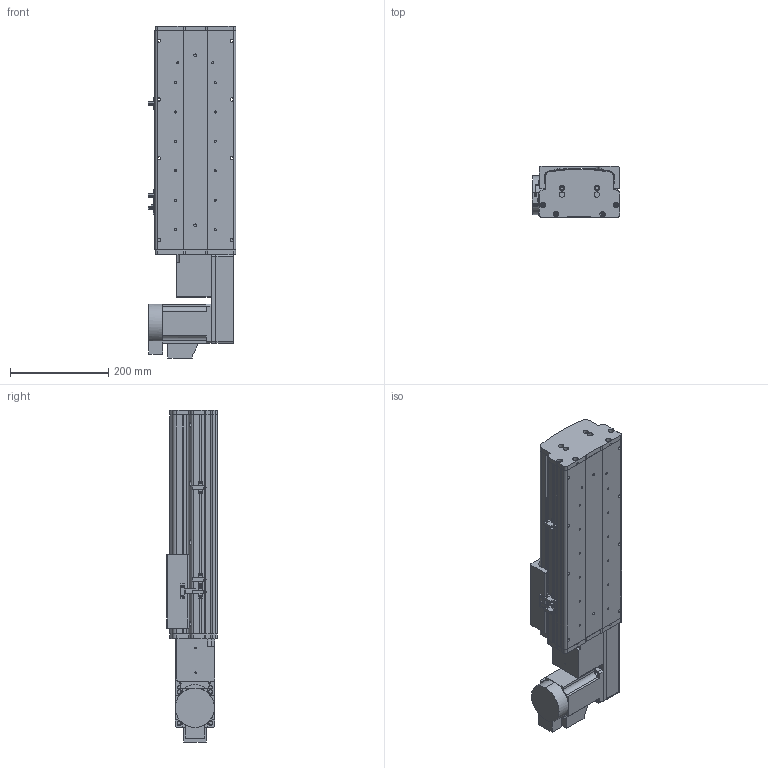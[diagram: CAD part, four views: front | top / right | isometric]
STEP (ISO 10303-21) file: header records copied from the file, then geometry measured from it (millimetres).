
FILE_DESCRIPTION (( 'STEP AP214' ), '1' );
FILE_NAME ('KSD165B-S200-MRB-CM.STEP', '2017-10-16T08:37:38', ( '微软用户' ), ( '微软中国' ), 'SwSTEP 2.0', 'SolidWorks 2014', '' );
FILE_SCHEMA (( 'AUTOMOTIVE_DESIGN' ));
Length unit declared in the file: millimetre
Products named in the file (17): HTPA26S5M250-A-H8 400W萇儂蚚 ; 130宽模组马达安装板连板左右折同步带; 130宽模组保护罩上下左右折-同步带; KSD165模组-同步带防尘盖1-200行程-最新版; KSD165模组同步带底板-200行程-最新; 拸秶雄ん750W侜督萇儂; 165宽马达安装板同步带右; U倰嫖萇假蚾璃; U倰嫖萇EEㄜSX672; 覜茼え68遵圉猾敕; KSD165模组-同步带-防撞垫2; KSD165模组同步带-防撞垫1; KSD165耀郪-ヶ傷啣1-肮祭湍; KSD165模组-后端板1-同步带; KSD165模组-同步带滑动座-最新版; KSD165B-S200-MRB-CM; HTPA26S5M250-A-H8 750W萇儂蚚
Assembly tree (20 placements, depth 2):
  KSD165B-S200-MRB-CM
    KSD165模组-同步带滑动座-最新版
    KSD165模组-后端板1-同步带
    KSD165耀郪-ヶ傷啣1-肮祭湍
    KSD165模组同步带-防撞垫1
    KSD165模组-同步带-防撞垫2
    覜茼え68遵圉猾敕
    U倰嫖萇EEㄜSX672  x3
    U倰嫖萇假蚾璃  x3
    165宽马达安装板同步带右
    拸秶雄ん750W侜督萇儂
    KSD165模组同步带底板-200行程-最新
    KSD165模组-同步带防尘盖1-200行程-最新版
    130宽模组保护罩上下左右折-同步带
    130宽模组马达安装板连板左右折同步带
    HTPA26S5M250-A-H8 400W萇儂蚚 
    HTPA26S5M250-A-H8 750W萇儂蚚
Bounding box: 178.7 x 104 x 677.5 mm (x, y, z)
Volume: 4308456.4 mm3; surface area: 989644.4 mm2
Topology: 21 solids, 21 shells, 1849 faces, 5202 edges, 3392 vertices
Faces by surface type: cylinder 1163, plane 574, cone 112
Entity records: 58972 total; most frequent: CARTESIAN_POINT 12088, DIRECTION 9782, ORIENTED_EDGE 9064, EDGE_CURVE 4532, AXIS2_PLACEMENT_3D 3820, VERTEX_POINT 2984, CIRCLE 2168, LINE 2142
